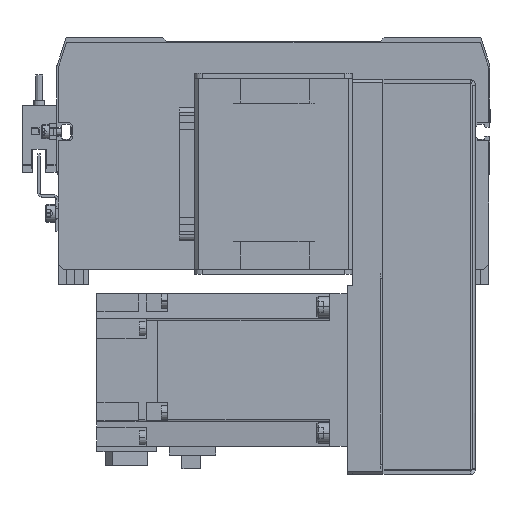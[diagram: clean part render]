
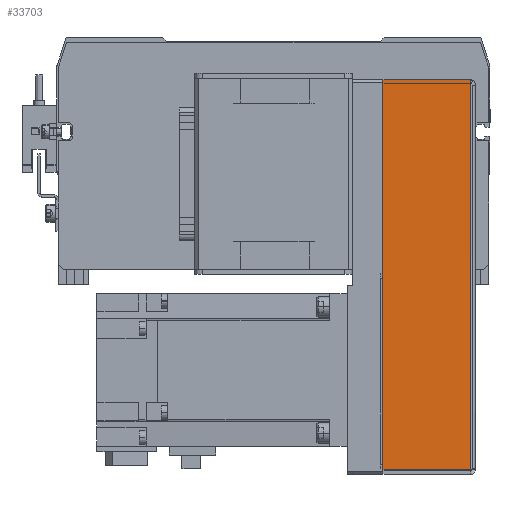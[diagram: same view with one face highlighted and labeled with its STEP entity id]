
A CAD part, front view. The second image highlights one B-rep face of the part: STEP entity #33703.
In plain terms, the highlighted planar face has unit normal (0, -1, 0).
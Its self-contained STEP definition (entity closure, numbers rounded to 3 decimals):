
#521 = DIRECTION ( 'NONE',  ( -1., 0., 0. ) ) ;
#923 = DIRECTION ( 'NONE',  ( 0., 0., -1. ) ) ;
#1281 = EDGE_CURVE ( 'NONE', #35995, #13170, #16705, .T. ) ;
#6716 = VERTEX_POINT ( 'NONE', #40938 ) ;
#7562 = VECTOR ( 'NONE', #27715, 1000. ) ;
#9175 = ORIENTED_EDGE ( 'NONE', *, *, #22285, .F. ) ;
#13170 = VERTEX_POINT ( 'NONE', #44569 ) ;
#13944 = CARTESIAN_POINT ( 'NONE',  ( 0.737, -14.163, 18.873 ) ) ;
#14170 = DIRECTION ( 'NONE',  ( 0., 0., 1. ) ) ;
#14735 = EDGE_CURVE ( 'NONE', #20943, #6716, #21601, .T. ) ;
#15947 = ORIENTED_EDGE ( 'NONE', *, *, #14735, .T. ) ;
#16147 = EDGE_LOOP ( 'NONE', ( #9175, #15947, #22595, #40675 ) ) ;
#16705 = LINE ( 'NONE', #13944, #7562 ) ;
#16867 = VECTOR ( 'NONE', #923, 1000. ) ;
#19554 = LINE ( 'NONE', #21500, #16867 ) ;
#20499 = VECTOR ( 'NONE', #34654, 1000. ) ;
#20943 = VERTEX_POINT ( 'NONE', #36797 ) ;
#21089 = DIRECTION ( 'NONE',  ( 0., 1., 0. ) ) ;
#21500 = CARTESIAN_POINT ( 'NONE',  ( 35., -14.163, 20.673 ) ) ;
#21601 = LINE ( 'NONE', #41884, #20499 ) ;
#22285 = EDGE_CURVE ( 'NONE', #20943, #35995, #36529, .T. ) ;
#22595 = ORIENTED_EDGE ( 'NONE', *, *, #25383, .F. ) ;
#25383 = EDGE_CURVE ( 'NONE', #13170, #6716, #19554, .T. ) ;
#27715 = DIRECTION ( 'NONE',  ( 1., 0., 0. ) ) ;
#30604 = AXIS2_PLACEMENT_3D ( 'NONE', #35090, #21089, #521 ) ;
#31180 = PLANE ( 'NONE',  #30604 ) ;
#33703 = ADVANCED_FACE ( 'NONE', ( #36952 ), #31180, .F. ) ;
#34654 = DIRECTION ( 'NONE',  ( 1., 0., 0. ) ) ;
#35090 = CARTESIAN_POINT ( 'NONE',  ( 0., -14.163, 0. ) ) ;
#35450 = VECTOR ( 'NONE', #14170, 1000. ) ;
#35995 = VERTEX_POINT ( 'NONE', #38911 ) ;
#36529 = LINE ( 'NONE', #37848, #35450 ) ;
#36797 = CARTESIAN_POINT ( 'NONE',  ( 0.737, -14.163, -134.327 ) ) ;
#36952 = FACE_OUTER_BOUND ( 'NONE', #16147, .T. ) ;
#37848 = CARTESIAN_POINT ( 'NONE',  ( 0.737, -14.163, 20.673 ) ) ;
#38911 = CARTESIAN_POINT ( 'NONE',  ( 0.737, -14.163, 18.873 ) ) ;
#40675 = ORIENTED_EDGE ( 'NONE', *, *, #1281, .F. ) ;
#40938 = CARTESIAN_POINT ( 'NONE',  ( 35., -14.163, -134.327 ) ) ;
#41884 = CARTESIAN_POINT ( 'NONE',  ( 0.737, -14.163, -134.327 ) ) ;
#44569 = CARTESIAN_POINT ( 'NONE',  ( 35., -14.163, 18.873 ) ) ;
